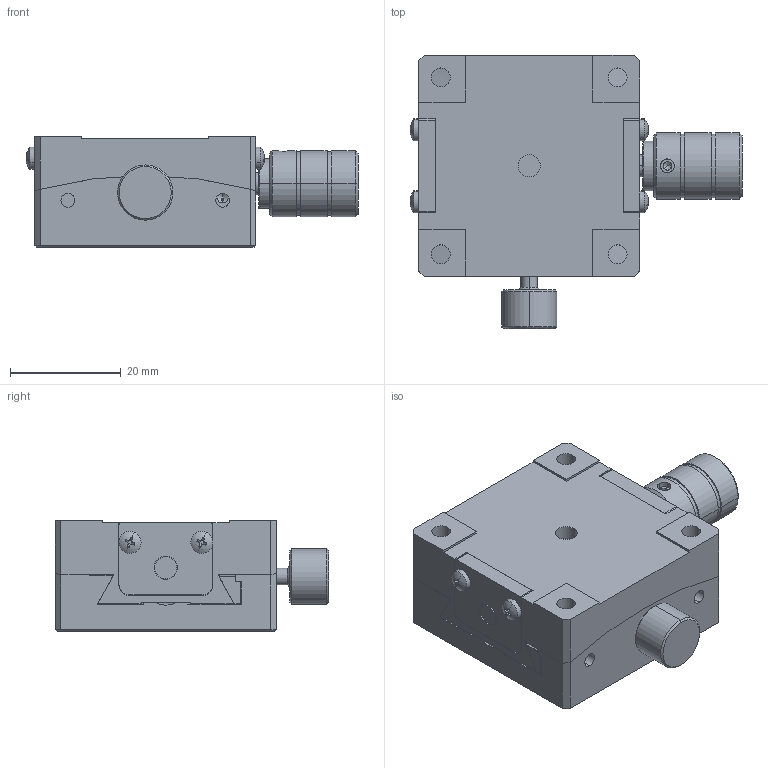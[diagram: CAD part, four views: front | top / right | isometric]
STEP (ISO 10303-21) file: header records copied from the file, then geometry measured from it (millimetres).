
FILE_DESCRIPTION (( 'STEP AP203' ), '1' );
FILE_NAME ('BFSG40-60.STEP', '2024-07-30T00:45:38', ( '微软用户' ), ( '微软中国' ), 'SwSTEP 2.0', 'SolidWorks 2024', '' );
FILE_SCHEMA (( 'CONFIG_CONTROL_DESIGN' ));
Length unit declared in the file: millimetre
Products named in the file (1): BFSG40-60
Bounding box: 60.08 x 49.45 x 20 mm (x, y, z)
Volume: 30708.5 mm3; surface area: 17594.8 mm2
Topology: 13 solids, 13 shells, 710 faces, 1925 edges, 1251 vertices
Faces by surface type: plane 411, cylinder 199, cone 61, bspline 29, sphere 8, torus 2
Entity records: 30663 total; most frequent: CARTESIAN_POINT 12865, ORIENTED_EDGE 3786, DIRECTION 3572, EDGE_CURVE 1893, VERTEX_POINT 1251, AXIS2_PLACEMENT_3D 1198, LINE 1176, VECTOR 1176
